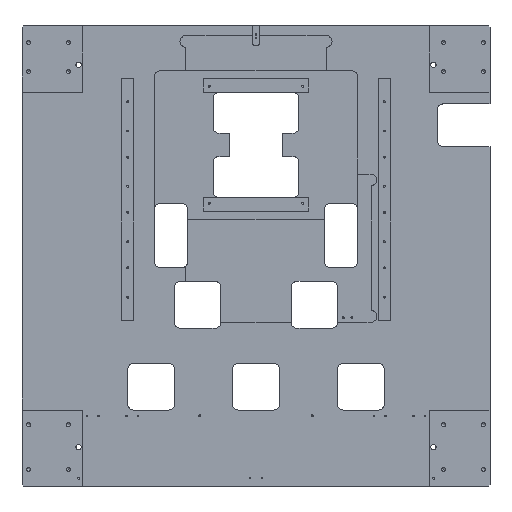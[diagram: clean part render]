
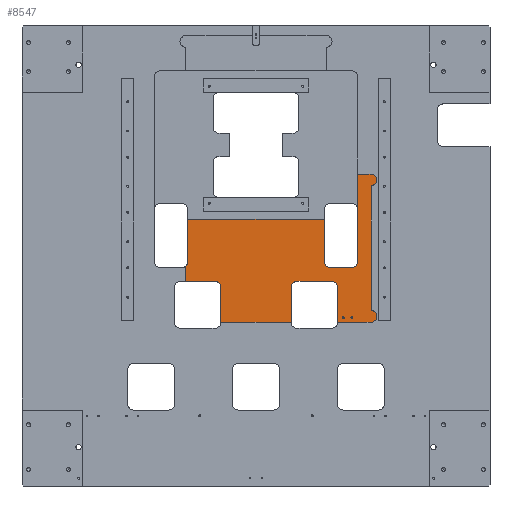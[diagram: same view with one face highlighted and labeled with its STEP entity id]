
A CAD part, top view. The second image highlights one B-rep face of the part: STEP entity #8547.
In plain terms, the highlighted planar face has unit normal (0, 0, 1).
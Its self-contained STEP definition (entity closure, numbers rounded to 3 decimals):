
#908=CARTESIAN_POINT('',(860.,-380.,50.));
#909=VERTEX_POINT('',#908);
#910=CARTESIAN_POINT('',(860.,-605.,50.));
#911=VERTEX_POINT('',#910);
#912=CARTESIAN_POINT('',(860.,-380.,50.));
#913=DIRECTION('',(0.,-1.,0.));
#914=VECTOR('',#913,225.);
#915=LINE('',#912,#914);
#916=EDGE_CURVE('',#909,#911,#915,.T.);
#972=CARTESIAN_POINT('',(420.,-616.18,50.));
#973=VERTEX_POINT('',#972);
#980=CARTESIAN_POINT('',(425.,-605.,50.));
#981=VERTEX_POINT('',#980);
#982=CARTESIAN_POINT('',(410.,-605.,50.));
#983=DIRECTION('',(0.,0.,-1.));
#984=DIRECTION('',(-1.,0.,0.));
#985=AXIS2_PLACEMENT_3D('',#982,#983,#984);
#986=CIRCLE('',#985,15.);
#987=EDGE_CURVE('',#981,#973,#986,.T.);
#1074=CARTESIAN_POINT('',(420.,-655.,50.));
#1075=VERTEX_POINT('',#1074);
#1076=CARTESIAN_POINT('',(495.,-655.,50.));
#1077=VERTEX_POINT('',#1076);
#1078=CARTESIAN_POINT('',(420.,-655.,50.));
#1079=DIRECTION('',(1.,0.,-0.));
#1080=VECTOR('',#1079,75.);
#1081=LINE('',#1078,#1080);
#1082=EDGE_CURVE('',#1075,#1077,#1081,.T.);
#2308=CARTESIAN_POINT('',(775.,-496.,50.));
#2309=VERTEX_POINT('',#2308);
#2310=CARTESIAN_POINT('',(425.,-496.,50.));
#2311=VERTEX_POINT('',#2310);
#2312=CARTESIAN_POINT('',(775.,-496.,50.));
#2313=DIRECTION('',(-1.,0.,0.));
#2314=VECTOR('',#2313,350.);
#2315=LINE('',#2312,#2314);
#2316=EDGE_CURVE('',#2309,#2311,#2315,.T.);
#2656=CARTESIAN_POINT('',(845.,-620.,50.));
#2657=VERTEX_POINT('',#2656);
#2658=CARTESIAN_POINT('',(790.,-620.,50.));
#2659=VERTEX_POINT('',#2658);
#2660=CARTESIAN_POINT('',(845.,-620.,50.));
#2661=DIRECTION('',(-1.,0.,0.));
#2662=VECTOR('',#2661,55.);
#2663=LINE('',#2660,#2662);
#2664=EDGE_CURVE('',#2657,#2659,#2663,.T.);
#2687=CARTESIAN_POINT('',(775.,-605.,50.));
#2688=VERTEX_POINT('',#2687);
#2689=CARTESIAN_POINT('',(790.,-605.,50.));
#2690=DIRECTION('',(0.,0.,-1.));
#2691=DIRECTION('',(-1.,0.,0.));
#2692=AXIS2_PLACEMENT_3D('',#2689,#2690,#2691);
#2693=CIRCLE('',#2692,15.);
#2694=EDGE_CURVE('',#2659,#2688,#2693,.T.);
#2712=CARTESIAN_POINT('',(775.,-605.,50.));
#2713=DIRECTION('',(0.,1.,0.));
#2714=VECTOR('',#2713,109.);
#2715=LINE('',#2712,#2714);
#2716=EDGE_CURVE('',#2688,#2309,#2715,.T.);
#2743=CARTESIAN_POINT('',(845.,-605.,50.));
#2744=DIRECTION('',(0.,0.,-1.));
#2745=DIRECTION('',(-1.,0.,0.));
#2746=AXIS2_PLACEMENT_3D('',#2743,#2744,#2745);
#2747=CIRCLE('',#2746,15.);
#2748=EDGE_CURVE('',#911,#2657,#2747,.T.);
#2799=CARTESIAN_POINT('',(425.,-496.,50.));
#2800=DIRECTION('',(0.,-1.,0.));
#2801=VECTOR('',#2800,109.);
#2802=LINE('',#2799,#2801);
#2803=EDGE_CURVE('',#2311,#981,#2802,.T.);
#4971=CARTESIAN_POINT('',(690.,-760.,50.));
#4972=VERTEX_POINT('',#4971);
#4996=CARTESIAN_POINT('',(690.,-670.,50.));
#4997=VERTEX_POINT('',#4996);
#4998=CARTESIAN_POINT('',(690.,-760.,50.));
#4999=DIRECTION('',(-0.,1.,0.));
#5000=VECTOR('',#4999,90.);
#5001=LINE('',#4998,#5000);
#5002=EDGE_CURVE('',#4972,#4997,#5001,.T.);
#5020=CARTESIAN_POINT('',(705.,-655.,50.));
#5021=VERTEX_POINT('',#5020);
#5022=CARTESIAN_POINT('',(705.,-670.,50.));
#5023=DIRECTION('',(0.,0.,-1.));
#5024=DIRECTION('',(-1.,0.,0.));
#5025=AXIS2_PLACEMENT_3D('',#5022,#5023,#5024);
#5026=CIRCLE('',#5025,15.);
#5027=EDGE_CURVE('',#4997,#5021,#5026,.T.);
#5045=CARTESIAN_POINT('',(794.,-655.,50.));
#5046=VERTEX_POINT('',#5045);
#5047=CARTESIAN_POINT('',(705.,-655.,50.));
#5048=DIRECTION('',(1.,0.,-0.));
#5049=VECTOR('',#5048,89.);
#5050=LINE('',#5047,#5049);
#5051=EDGE_CURVE('',#5021,#5046,#5050,.T.);
#5069=CARTESIAN_POINT('',(809.,-670.,50.));
#5070=VERTEX_POINT('',#5069);
#5071=CARTESIAN_POINT('',(794.,-670.,50.));
#5072=DIRECTION('',(0.,0.,-1.));
#5073=DIRECTION('',(-1.,0.,0.));
#5074=AXIS2_PLACEMENT_3D('',#5071,#5072,#5073);
#5075=CIRCLE('',#5074,15.);
#5076=EDGE_CURVE('',#5046,#5070,#5075,.T.);
#5094=CARTESIAN_POINT('',(809.,-760.,50.));
#5095=VERTEX_POINT('',#5094);
#5096=CARTESIAN_POINT('',(809.,-670.,50.));
#5097=DIRECTION('',(0.,-1.,0.));
#5098=VECTOR('',#5097,90.);
#5099=LINE('',#5096,#5098);
#5100=EDGE_CURVE('',#5070,#5095,#5099,.T.);
#5340=CARTESIAN_POINT('',(510.,-670.,50.));
#5341=VERTEX_POINT('',#5340);
#5342=CARTESIAN_POINT('',(495.,-670.,50.));
#5343=DIRECTION('',(0.,0.,-1.));
#5344=DIRECTION('',(-1.,0.,0.));
#5345=AXIS2_PLACEMENT_3D('',#5342,#5343,#5344);
#5346=CIRCLE('',#5345,15.);
#5347=EDGE_CURVE('',#1077,#5341,#5346,.T.);
#5365=CARTESIAN_POINT('',(510.,-760.,50.));
#5366=VERTEX_POINT('',#5365);
#5367=CARTESIAN_POINT('',(510.,-670.,50.));
#5368=DIRECTION('',(0.,-1.,0.));
#5369=VECTOR('',#5368,90.);
#5370=LINE('',#5367,#5369);
#5371=EDGE_CURVE('',#5341,#5366,#5370,.T.);
#8415=CARTESIAN_POINT('',(420.,-655.,50.));
#8416=DIRECTION('',(0.,1.,0.));
#8417=VECTOR('',#8416,38.82);
#8418=LINE('',#8415,#8417);
#8419=EDGE_CURVE('',#1075,#973,#8418,.T.);
#8430=CARTESIAN_POINT('',(690.,-760.,50.));
#8431=DIRECTION('',(-1.,0.,0.));
#8432=VECTOR('',#8431,180.);
#8433=LINE('',#8430,#8432);
#8434=EDGE_CURVE('',#4972,#5366,#8433,.T.);
#8442=CARTESIAN_POINT('',(600.,-590.,50.));
#8443=DIRECTION('',(0.,0.,-1.));
#8444=DIRECTION('',(0.,-1.,0.));
#8445=AXIS2_PLACEMENT_3D('',#8442,#8443,#8444);
#8446=PLANE('',#8445);
#8447=CARTESIAN_POINT('',(843.541,-748.,50.));
#8448=VERTEX_POINT('',#8447);
#8449=CARTESIAN_POINT('',(846.,-748.,50.));
#8450=DIRECTION('',(0.,0.,1.));
#8451=DIRECTION('',(-1.,0.,0.));
#8452=AXIS2_PLACEMENT_3D('',#8449,#8450,#8451);
#8453=CIRCLE('',#8452,2.459);
#8454=EDGE_CURVE('',#8448,#8448,#8453,.T.);
#8455=ORIENTED_EDGE('',*,*,#8454,.F.);
#8456=EDGE_LOOP('',(#8455));
#8457=FACE_BOUND('',#8456,.T.);
#8458=CARTESIAN_POINT('',(821.541,-748.,50.));
#8459=VERTEX_POINT('',#8458);
#8460=CARTESIAN_POINT('',(824.,-748.,50.));
#8461=DIRECTION('',(0.,0.,1.));
#8462=DIRECTION('',(-1.,0.,0.));
#8463=AXIS2_PLACEMENT_3D('',#8460,#8461,#8462);
#8464=CIRCLE('',#8463,2.459);
#8465=EDGE_CURVE('',#8459,#8459,#8464,.T.);
#8466=ORIENTED_EDGE('',*,*,#8465,.F.);
#8467=EDGE_LOOP('',(#8466));
#8468=FACE_BOUND('',#8467,.T.);
#8469=ORIENTED_EDGE('',*,*,#916,.T.);
#8470=ORIENTED_EDGE('',*,*,#2748,.T.);
#8471=ORIENTED_EDGE('',*,*,#2664,.T.);
#8472=ORIENTED_EDGE('',*,*,#2694,.T.);
#8473=ORIENTED_EDGE('',*,*,#2716,.T.);
#8474=ORIENTED_EDGE('',*,*,#2316,.T.);
#8475=ORIENTED_EDGE('',*,*,#2803,.T.);
#8476=ORIENTED_EDGE('',*,*,#987,.T.);
#8477=ORIENTED_EDGE('',*,*,#8419,.F.);
#8478=ORIENTED_EDGE('',*,*,#1082,.T.);
#8479=ORIENTED_EDGE('',*,*,#5347,.T.);
#8480=ORIENTED_EDGE('',*,*,#5371,.T.);
#8481=ORIENTED_EDGE('',*,*,#8434,.F.);
#8482=ORIENTED_EDGE('',*,*,#5002,.T.);
#8483=ORIENTED_EDGE('',*,*,#5027,.T.);
#8484=ORIENTED_EDGE('',*,*,#5051,.T.);
#8485=ORIENTED_EDGE('',*,*,#5076,.T.);
#8486=ORIENTED_EDGE('',*,*,#5100,.T.);
#8487=CARTESIAN_POINT('',(895.,-760.,50.));
#8488=VERTEX_POINT('',#8487);
#8489=CARTESIAN_POINT('',(895.,-760.,50.));
#8490=DIRECTION('',(-1.,0.,0.));
#8491=VECTOR('',#8490,86.);
#8492=LINE('',#8489,#8491);
#8493=EDGE_CURVE('',#8488,#5095,#8492,.T.);
#8494=ORIENTED_EDGE('',*,*,#8493,.F.);
#8495=CARTESIAN_POINT('',(910.,-745.,50.));
#8496=VERTEX_POINT('',#8495);
#8497=CARTESIAN_POINT('',(895.,-745.,50.));
#8498=DIRECTION('',(0.,0.,-1.));
#8499=DIRECTION('',(-1.,0.,0.));
#8500=AXIS2_PLACEMENT_3D('',#8497,#8498,#8499);
#8501=CIRCLE('',#8500,15.);
#8502=EDGE_CURVE('',#8496,#8488,#8501,.T.);
#8503=ORIENTED_EDGE('',*,*,#8502,.F.);
#8504=CARTESIAN_POINT('',(895.,-730.,50.));
#8505=VERTEX_POINT('',#8504);
#8506=CARTESIAN_POINT('',(895.,-745.,50.));
#8507=DIRECTION('',(0.,0.,-1.));
#8508=DIRECTION('',(-1.,0.,0.));
#8509=AXIS2_PLACEMENT_3D('',#8506,#8507,#8508);
#8510=CIRCLE('',#8509,15.);
#8511=EDGE_CURVE('',#8505,#8496,#8510,.T.);
#8512=ORIENTED_EDGE('',*,*,#8511,.F.);
#8513=CARTESIAN_POINT('',(895.,-410.,50.));
#8514=VERTEX_POINT('',#8513);
#8515=CARTESIAN_POINT('',(895.,-410.,50.));
#8516=DIRECTION('',(0.,-1.,0.));
#8517=VECTOR('',#8516,320.);
#8518=LINE('',#8515,#8517);
#8519=EDGE_CURVE('',#8514,#8505,#8518,.T.);
#8520=ORIENTED_EDGE('',*,*,#8519,.F.);
#8521=CARTESIAN_POINT('',(910.,-395.,50.));
#8522=VERTEX_POINT('',#8521);
#8523=CARTESIAN_POINT('',(895.,-395.,50.));
#8524=DIRECTION('',(0.,0.,-1.));
#8525=DIRECTION('',(0.,1.,0.));
#8526=AXIS2_PLACEMENT_3D('',#8523,#8524,#8525);
#8527=CIRCLE('',#8526,15.);
#8528=EDGE_CURVE('',#8522,#8514,#8527,.T.);
#8529=ORIENTED_EDGE('',*,*,#8528,.F.);
#8530=CARTESIAN_POINT('',(895.,-380.,50.));
#8531=VERTEX_POINT('',#8530);
#8532=CARTESIAN_POINT('',(895.,-395.,50.));
#8533=DIRECTION('',(0.,0.,-1.));
#8534=DIRECTION('',(0.,1.,0.));
#8535=AXIS2_PLACEMENT_3D('',#8532,#8533,#8534);
#8536=CIRCLE('',#8535,15.);
#8537=EDGE_CURVE('',#8531,#8522,#8536,.T.);
#8538=ORIENTED_EDGE('',*,*,#8537,.F.);
#8539=CARTESIAN_POINT('',(860.,-380.,50.));
#8540=DIRECTION('',(1.,-0.,0.));
#8541=VECTOR('',#8540,35.);
#8542=LINE('',#8539,#8541);
#8543=EDGE_CURVE('',#909,#8531,#8542,.T.);
#8544=ORIENTED_EDGE('',*,*,#8543,.F.);
#8545=EDGE_LOOP('',(#8469,#8470,#8471,#8472,#8473,#8474,#8475,#8476,#8477,#8478,#8479,#8480,#8481,#8482,#8483,#8484,#8485,#8486,#8494,#8503,#8512,#8520,#8529,#8538,#8544));
#8546=FACE_BOUND('',#8545,.T.);
#8547=ADVANCED_FACE('',(#8457,#8468,#8546),#8446,.F.);
